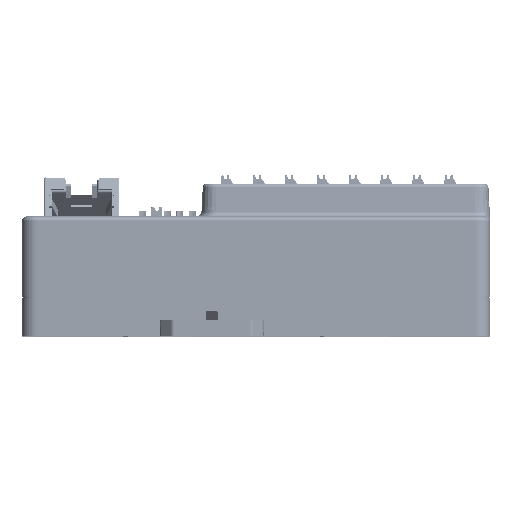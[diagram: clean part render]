
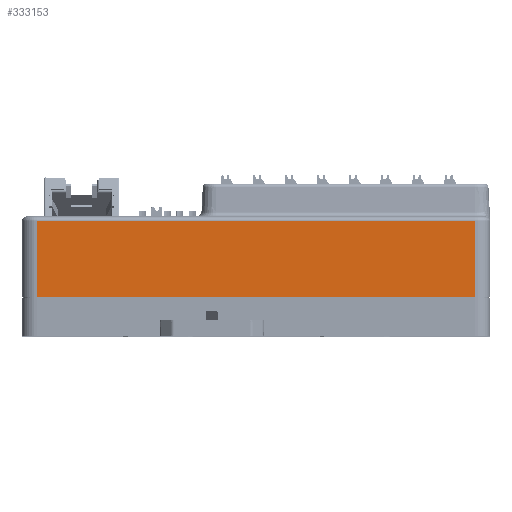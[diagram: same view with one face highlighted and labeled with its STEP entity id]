
A CAD part, top view. The second image highlights one B-rep face of the part: STEP entity #333153.
In plain terms, the highlighted planar face has unit normal (0, 0, 1).
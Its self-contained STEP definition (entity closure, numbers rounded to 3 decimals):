
#66798=DIRECTION('',(0.,1.,0.));
#66799=VECTOR('',#66798,15.4);
#66800=CARTESIAN_POINT('',(44.65,1.,32.5));
#66801=LINE('',#66800,#66799);
#66802=DIRECTION('',(-1.,0.,0.));
#66803=VECTOR('',#66802,89.3);
#66804=CARTESIAN_POINT('',(44.65,1.,32.5));
#66805=LINE('',#66804,#66803);
#66806=DIRECTION('',(-1.,0.,0.));
#66807=VECTOR('',#66806,89.3);
#66808=CARTESIAN_POINT('',(44.65,16.4,32.5));
#66809=LINE('',#66808,#66807);
#66829=DIRECTION('',(0.,-1.,0.));
#66830=VECTOR('',#66829,15.4);
#66831=CARTESIAN_POINT('',(-44.65,16.4,32.5));
#66832=LINE('',#66831,#66830);
#188329=CARTESIAN_POINT('',(-44.65,1.,32.5));
#188330=VERTEX_POINT('',#188329);
#188331=CARTESIAN_POINT('',(44.65,1.,32.5));
#188332=VERTEX_POINT('',#188331);
#188533=CARTESIAN_POINT('',(44.65,16.4,32.5));
#188534=VERTEX_POINT('',#188533);
#188535=CARTESIAN_POINT('',(-44.65,16.4,32.5));
#188536=VERTEX_POINT('',#188535);
#333140=CARTESIAN_POINT('',(-47.65,0.,32.5));
#333141=DIRECTION('',(0.,0.,1.));
#333142=DIRECTION('',(1.,0.,0.));
#333143=AXIS2_PLACEMENT_3D('',#333140,#333141,#333142);
#333144=PLANE('',#333143);
#333146=ORIENTED_EDGE('',*,*,#333145,.F.);
#333147=ORIENTED_EDGE('',*,*,#333135,.F.);
#333148=ORIENTED_EDGE('',*,*,#332438,.T.);
#333150=ORIENTED_EDGE('',*,*,#333149,.F.);
#333151=EDGE_LOOP('',(#333146,#333147,#333148,#333150));
#333152=FACE_OUTER_BOUND('',#333151,.F.);
#333153=ADVANCED_FACE('',(#333152),#333144,.T.);
#332438=EDGE_CURVE('',#188332,#188330,#66805,.T.);
#333135=EDGE_CURVE('',#188332,#188534,#66801,.T.);
#333145=EDGE_CURVE('',#188534,#188536,#66809,.T.);
#333149=EDGE_CURVE('',#188536,#188330,#66832,.T.);
